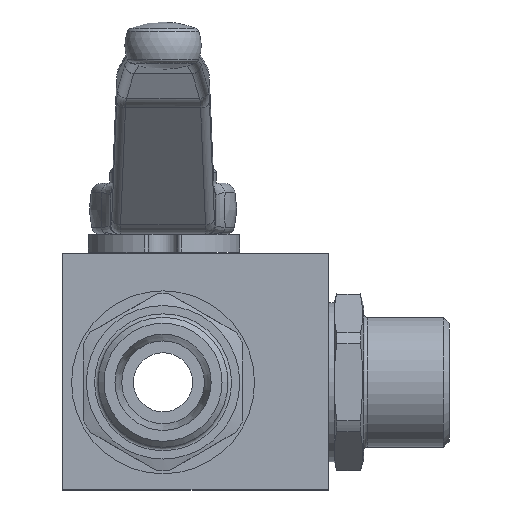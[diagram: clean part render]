
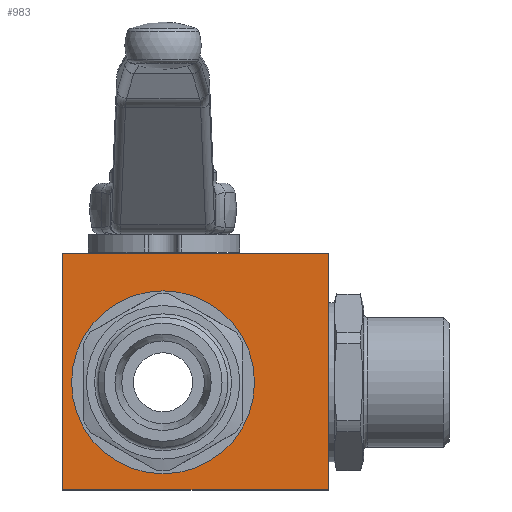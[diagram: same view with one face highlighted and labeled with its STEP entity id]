
A CAD part, front view. The second image highlights one B-rep face of the part: STEP entity #983.
In plain terms, the highlighted planar face has unit normal (0, -1, 0) as drawn and (0, 1, 0) by its records, which use the part's own axes.
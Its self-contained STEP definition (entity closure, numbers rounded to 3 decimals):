
#983 = ADVANCED_FACE( '', ( #2014, #2015 ), #2016, .F. );
#2014 = FACE_BOUND( '', #3791, .T. );
#2015 = FACE_OUTER_BOUND( '', #3792, .T. );
#2016 = PLANE( '', #3793 );
#3791 = EDGE_LOOP( '', ( #6378 ) );
#3792 = EDGE_LOOP( '', ( #6379, #6380, #6381, #6382 ) );
#3793 = AXIS2_PLACEMENT_3D( '', #6383, #6384, #6385 );
#6378 = ORIENTED_EDGE( '', *, *, #8298, .F. );
#6379 = ORIENTED_EDGE( '', *, *, #8192, .F. );
#6380 = ORIENTED_EDGE( '', *, *, #7882, .F. );
#6381 = ORIENTED_EDGE( '', *, *, #8299, .F. );
#6382 = ORIENTED_EDGE( '', *, *, #8300, .F. );
#6383 = CARTESIAN_POINT( '', ( -28., 22.5, -18.25 ) );
#6384 = DIRECTION( '', ( 0., -1., 0. ) );
#6385 = DIRECTION( '', ( 0., 0., -1. ) );
#7882 = EDGE_CURVE( '', #9418, #9419, #9420, .T. );
#8192 = EDGE_CURVE( '', #9419, #9858, #9859, .T. );
#8298 = EDGE_CURVE( '', #9995, #9995, #9996, .T. );
#8299 = EDGE_CURVE( '', #9997, #9418, #9998, .T. );
#8300 = EDGE_CURVE( '', #9858, #9997, #9999, .T. );
#9418 = VERTEX_POINT( '', #11945 );
#9419 = VERTEX_POINT( '', #11946 );
#9420 = LINE( '', #11947, #11948 );
#9858 = VERTEX_POINT( '', #12887 );
#9859 = LINE( '', #12888, #12889 );
#9995 = VERTEX_POINT( '', #13292 );
#9996 = CIRCLE( '', #13293, 15.5 );
#9997 = VERTEX_POINT( '', #13294 );
#9998 = LINE( '', #13295, #13296 );
#9999 = LINE( '', #13297, #13298 );
#11945 = CARTESIAN_POINT( '', ( 17., 22.5, 21.75 ) );
#11946 = CARTESIAN_POINT( '', ( -28., 22.5, 21.75 ) );
#11947 = CARTESIAN_POINT( '', ( 17., 22.5, 21.75 ) );
#11948 = VECTOR( '', #14360, 1000. );
#12887 = CARTESIAN_POINT( '', ( -28., 22.5, -18.25 ) );
#12888 = CARTESIAN_POINT( '', ( -28., 22.5, 21.75 ) );
#12889 = VECTOR( '', #14734, 1000. );
#13292 = CARTESIAN_POINT( '', ( 15.5, 22.5, 0. ) );
#13293 = AXIS2_PLACEMENT_3D( '', #14859, #14860, #14861 );
#13294 = CARTESIAN_POINT( '', ( 17., 22.5, -18.25 ) );
#13295 = CARTESIAN_POINT( '', ( 17., 22.5, -18.25 ) );
#13296 = VECTOR( '', #14862, 1000. );
#13297 = CARTESIAN_POINT( '', ( -28., 22.5, -18.25 ) );
#13298 = VECTOR( '', #14863, 1000. );
#14360 = DIRECTION( '', ( -1., 0., 0. ) );
#14734 = DIRECTION( '', ( 0., 0., -1. ) );
#14859 = CARTESIAN_POINT( '', ( 0., 22.5, 0. ) );
#14860 = DIRECTION( '', ( 0., 1., 0. ) );
#14861 = DIRECTION( '', ( 1., 0., 0. ) );
#14862 = DIRECTION( '', ( 0., 0., 1. ) );
#14863 = DIRECTION( '', ( 1., 0., 0. ) );
